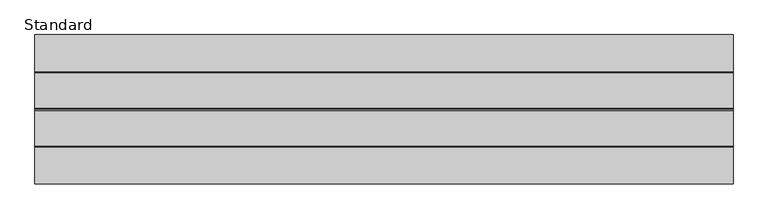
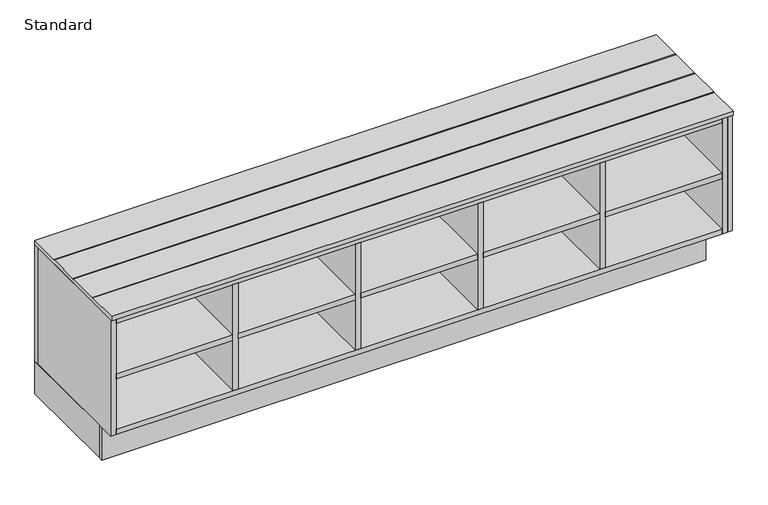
"""IFC4 building model written with IfcOpenShell, lengths in millimetres: furniture geometry, X_Bench-Wall-Duracube-Shoe Box : Standard."""

from ifc_helpers import new_model, si_unit, frame, origin, origin_with_axes, place, context, project, spatial, polyline, outline, extrude, source, transform, mapped, element, save


def standard_89b8acd5(model_context):
    return source(origin(), model_context, "Body", "SweptSolid", [
        extrude(outline(polyline([(-842.2996736, -407.5), (881.7003264, -407.5), (881.7003264, -729.5), (865.7003264, -729.5), (865.7003264, -423.5), (-826.2996736, -423.5), (-826.2996736, -729.5), (-842.2996736, -729.5), (-842.2996736, -407.5)])), origin_with_axes(), (0.0, 0.0, 1.0), 100.0),
        extrude(outline(polyline([(881.7003264, -729.5), (881.7003264, -407.5), (894.7003264, -407.5), (894.7003264, -729.5), (881.7003264, -729.5)])), origin_with_axes(), (0.0, 0.0, 1.0), 100.0),
        extrude(outline(polyline([(-842.2996736, -729.5), (-855.2996736, -729.5), (-855.2996736, -407.5), (-842.2996736, -407.5), (-842.2996736, -729.5)])), origin_with_axes(), (0.0, 0.0, 1.0), 100.0),
        extrude(outline(polyline([(-407.5, 457.0), (-792.5, 457.0), (-792.5, 470.0), (-698.5, 470.0), (-696.5, 468.0), (-694.5, 470.0), (-602.5, 470.0), (-600.5, 468.0), (-598.5, 470.0), (-506.5, 470.0), (-504.5, 468.0), (-502.5, 470.0), (-407.5, 470.0), (-407.5, 457.0)])), frame((-855.2996736, 0.0, 0.0), z_axis=(1.0, 0.0, 0.0), x_axis=(0.0, 1.0, 0.0)), (0.0, 0.0, 1.0), 1800.0),
        extrude(outline(polyline([(915.7003264, -423.5), (915.7003264, -787.5), (577.5003264, -787.5), (577.5003264, -423.5), (915.7003264, -423.5)])), frame((0.0, 0.0, 270.5), z_axis=(0.0, 0.0, 1.0), x_axis=(1.0, 0.0, 0.0)), (0.0, 0.0, 1.0), 16.0),
        extrude(outline(polyline([(561.5003264, -423.5), (561.5003264, -787.5), (223.3003264, -787.5), (223.3003264, -423.5), (561.5003264, -423.5)])), frame((0.0, 0.0, 270.5), z_axis=(0.0, 0.0, 1.0), x_axis=(1.0, 0.0, 0.0)), (0.0, 0.0, 1.0), 16.0),
        extrude(outline(polyline([(207.3003264, -423.5), (207.3003264, -787.5), (-130.8996736, -787.5), (-130.8996736, -423.5), (207.3003264, -423.5)])), frame((0.0, 0.0, 270.5), z_axis=(0.0, 0.0, 1.0), x_axis=(1.0, 0.0, 0.0)), (0.0, 0.0, 1.0), 16.0),
        extrude(outline(polyline([(-146.8996736, -423.5), (-146.8996736, -787.5), (-485.0996736, -787.5), (-485.0996736, -423.5), (-146.8996736, -423.5)])), frame((0.0, 0.0, 270.5), z_axis=(0.0, 0.0, 1.0), x_axis=(1.0, 0.0, 0.0)), (0.0, 0.0, 1.0), 16.0),
        extrude(outline(polyline([(577.5003264, -423.5), (577.5003264, -787.5), (561.5003264, -787.5), (561.5003264, -423.5), (577.5003264, -423.5)])), frame((0.0, 0.0, 116.0), z_axis=(0.0, 0.0, 1.0), x_axis=(1.0, 0.0, 0.0)), (0.0, 0.0, 1.0), 325.0),
        extrude(outline(polyline([(223.3003264, -423.5), (223.3003264, -787.5), (207.3003264, -787.5), (207.3003264, -423.5), (223.3003264, -423.5)])), frame((0.0, 0.0, 116.0), z_axis=(0.0, 0.0, 1.0), x_axis=(1.0, 0.0, 0.0)), (0.0, 0.0, 1.0), 325.0),
        extrude(outline(polyline([(-130.8996736, -423.5), (-130.8996736, -787.5), (-146.8996736, -787.5), (-146.8996736, -423.5), (-130.8996736, -423.5)])), frame((0.0, 0.0, 116.0), z_axis=(0.0, 0.0, 1.0), x_axis=(1.0, 0.0, 0.0)), (0.0, 0.0, 1.0), 325.0),
        extrude(outline(polyline([(-485.0996736, -423.5), (-485.0996736, -787.5), (-501.0996736, -787.5), (-501.0996736, -423.5), (-485.0996736, -423.5)])), frame((0.0, 0.0, 116.0), z_axis=(0.0, 0.0, 1.0), x_axis=(1.0, 0.0, 0.0)), (0.0, 0.0, 1.0), 325.0),
        extrude(outline(polyline([(931.7003264, -423.5), (931.7003264, -787.5), (915.7003264, -787.5), (915.7003264, -423.5), (931.7003264, -423.5)])), frame((0.0, 0.0, 100.0), z_axis=(0.0, 0.0, 1.0), x_axis=(1.0, 0.0, 0.0)), (0.0, 0.0, 1.0), 357.0),
        extrude(outline(polyline([(-839.2996736, -423.5), (-839.2996736, -787.5), (-855.2996736, -787.5), (-855.2996736, -423.5), (-839.2996736, -423.5)])), frame((0.0, 0.0, 100.0), z_axis=(0.0, 0.0, 1.0), x_axis=(1.0, 0.0, 0.0)), (0.0, 0.0, 1.0), 357.0),
        extrude(outline(polyline([(-501.0996736, -423.5), (-501.0996736, -787.5), (-839.2996736, -787.5), (-839.2996736, -423.5), (-501.0996736, -423.5)])), frame((0.0, 0.0, 270.5), z_axis=(0.0, 0.0, 1.0), x_axis=(1.0, 0.0, 0.0)), (0.0, 0.0, 1.0), 16.0),
        extrude(outline(polyline([(915.7003264, -423.5), (915.7003264, -787.5), (-839.2996736, -787.5), (-839.2996736, -423.5), (915.7003264, -423.5)])), frame((0.0, 0.0, 441.0), z_axis=(0.0, 0.0, 1.0), x_axis=(1.0, 0.0, 0.0)), (0.0, 0.0, 1.0), 16.0),
        extrude(outline(polyline([(915.7003264, -423.5), (915.7003264, -787.5), (-839.2996736, -787.5), (-839.2996736, -423.5), (915.7003264, -423.5)])), frame((0.0, 0.0, 100.0), z_axis=(0.0, 0.0, 1.0), x_axis=(1.0, 0.0, 0.0)), (0.0, 0.0, 1.0), 16.0),
        extrude(outline(polyline([(931.7003264, -407.5), (944.7003264, -407.5), (944.7003264, -787.5), (931.7003264, -787.5), (931.7003264, -407.5)])), frame((0.0, 0.0, 100.0), z_axis=(0.0, 0.0, 1.0), x_axis=(1.0, 0.0, 0.0)), (0.0, 0.0, 1.0), 357.0),
        extrude(outline(polyline([(931.7003264, -407.5), (931.7003264, -423.5), (-855.2996736, -423.5), (-855.2996736, -407.5), (931.7003264, -407.5)])), frame((0.0, 0.0, 100.0), z_axis=(0.0, 0.0, 1.0), x_axis=(1.0, 0.0, 0.0)), (0.0, 0.0, 1.0), 357.0),
        extrude(outline(polyline([(865.7003264, -713.5), (865.7003264, -729.5), (-826.2996736, -729.5), (-826.2996736, -713.5), (865.7003264, -713.5)])), origin_with_axes(), (0.0, 0.0, 1.0), 100.0),
        extrude(outline(polyline([(894.7003264, -729.5), (894.7003264, -742.5), (-855.2996736, -742.5), (-855.2996736, -729.5), (894.7003264, -729.5)])), origin_with_axes(), (0.0, 0.0, 1.0), 100.0),
    ])


if __name__ == "__main__":
    model = new_model("IFC4")
    model_context = context("Model", 3, world=origin())
    ifc_project = project(units=[si_unit("LENGTHUNIT", "METRE", prefix="MILLI")], contexts=[model_context])
    site = spatial("IfcSite", under=ifc_project)
    building = spatial("IfcBuilding", under=site)
    placement = place(None, origin())
    standard_shape = standard_89b8acd5(model_context)
    element("IfcFurniture", 1, ObjectType="X_Bench-Wall-Duracube-Shoe Box : Standard", at=placement, inside=building, context=model_context, shape_type="MappedRepresentation", body=[
        mapped(standard_shape, transform((0.0, 0.0, 0.0), x_axis=(1.0, 0.0, 0.0), y_axis=(0.0, 1.0, 0.0), z_axis=(0.0, 0.0, 1.0))),
    ])
    save(model, "model.ifc")
